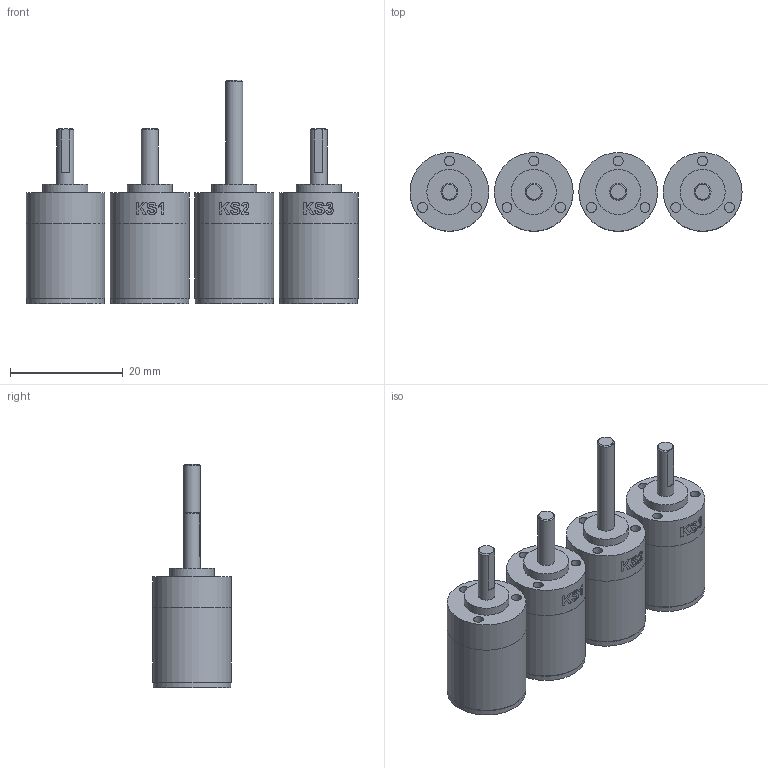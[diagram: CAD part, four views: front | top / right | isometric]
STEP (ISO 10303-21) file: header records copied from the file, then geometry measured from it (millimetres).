
FILE_DESCRIPTION(/* description */ (''),/* implementation_level */ '2;1');
FILE_NAME(/* name */ '14GPT-2stage_standard+KSx.stp',/* time_stamp */ '2024-10-30T09:11:18+01:00',/* author */ ('DR. FRITZ FAULHABER GmbH & Co. KG'),/* organization */ ('DR. FRITZ FAULHABER GmbH & Co. KG'),/* preprocessor_version */ 'ST-DEVELOPER v19.3',/* originating_system */ 'SIEMENS PLM Software NX2212.4000',/* authorisation */ '');
FILE_SCHEMA (('AUTOMOTIVE_DESIGN { 1 0 10303 214 3 1 1 1 }'));
Length unit declared in the file: millimetre
Products named in the file (1): A_objects
Bounding box: 59 x 14 x 39.7 mm (x, y, z)
Volume: 11583.5 mm3; surface area: 5962.7 mm2
Topology: 4 solids, 4 shells, 196 faces, 404 edges, 273 vertices
Faces by surface type: plane 91, cylinder 61, bspline 39, cone 5
Full cylindrical faces by diameter (mm): 1.75 x12, 2.651 x4, 3 x4, 8 x4, 9 x4, 12.8 x4, 13.4 x4, 13.8 x4, 13.999 x4, 14 x8
Entity records: 8754 total; most frequent: CARTESIAN_POINT 4623, ORIENTED_EDGE 664, DIRECTION 613, EDGE_CURVE 332, EDGE_LOOP 307, AXIS2_PLACEMENT_3D 287, VERTEX_POINT 255, FACE_BOUND 201
